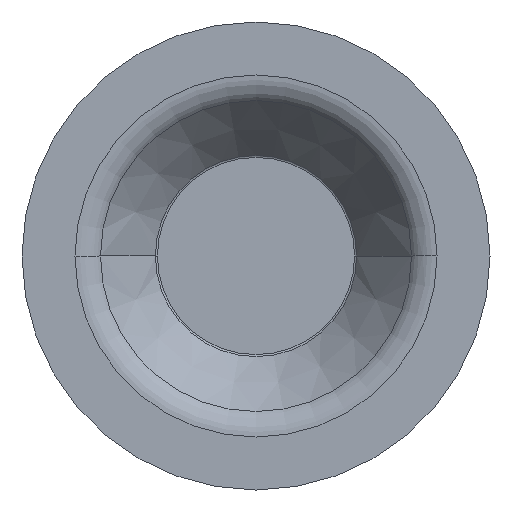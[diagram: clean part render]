
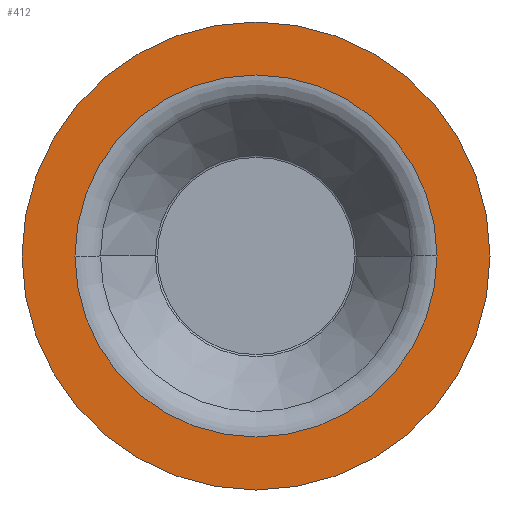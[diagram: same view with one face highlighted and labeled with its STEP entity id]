
A CAD part, front view. The second image highlights one B-rep face of the part: STEP entity #412.
In plain terms, the highlighted planar face has unit normal (0, -1, 0).
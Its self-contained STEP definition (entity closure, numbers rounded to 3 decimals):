
#59 = DIRECTION ( 'NONE',  ( 0., -1., 0. ) ) ;
#85 = EDGE_CURVE ( 'NONE', #1143, #639, #265, .T. ) ;
#87 = DIRECTION ( 'NONE',  ( 1., 0., 0. ) ) ;
#169 = CARTESIAN_POINT ( 'NONE',  ( 0., -22., 0. ) ) ;
#206 = AXIS2_PLACEMENT_3D ( 'NONE', #1599, #818, #666 ) ;
#265 = CIRCLE ( 'NONE', #206, 36.744 ) ;
#266 = DIRECTION ( 'NONE',  ( 0., -1., 0. ) ) ;
#327 = EDGE_CURVE ( 'NONE', #629, #837, #1069, .T. ) ;
#404 = EDGE_CURVE ( 'NONE', #639, #1143, #1496, .T. ) ;
#412 = ADVANCED_FACE ( 'NONE', ( #1466, #1088 ), #1337, .T. ) ;
#435 = CARTESIAN_POINT ( 'NONE',  ( 0., -22., 0. ) ) ;
#446 = DIRECTION ( 'NONE',  ( 1., 0., 0. ) ) ;
#484 = ORIENTED_EDGE ( 'NONE', *, *, #85, .F. ) ;
#521 = CARTESIAN_POINT ( 'NONE',  ( -36.744, -22., 0. ) ) ;
#550 = DIRECTION ( 'NONE',  ( -1., 0., 0. ) ) ;
#578 = AXIS2_PLACEMENT_3D ( 'NONE', #435, #1197, #550 ) ;
#619 = EDGE_LOOP ( 'NONE', ( #1619, #963 ) ) ;
#629 = VERTEX_POINT ( 'NONE', #1413 ) ;
#639 = VERTEX_POINT ( 'NONE', #521 ) ;
#666 = DIRECTION ( 'NONE',  ( -1., 0., 0. ) ) ;
#714 = CIRCLE ( 'NONE', #877, 47.5 ) ;
#818 = DIRECTION ( 'NONE',  ( 0., -1., 0. ) ) ;
#837 = VERTEX_POINT ( 'NONE', #1465 ) ;
#843 = DIRECTION ( 'NONE',  ( 1., 0., 0. ) ) ;
#877 = AXIS2_PLACEMENT_3D ( 'NONE', #1544, #266, #87 ) ;
#889 = ORIENTED_EDGE ( 'NONE', *, *, #404, .F. ) ;
#957 = AXIS2_PLACEMENT_3D ( 'NONE', #1597, #59, #446 ) ;
#963 = ORIENTED_EDGE ( 'NONE', *, *, #327, .T. ) ;
#972 = CARTESIAN_POINT ( 'NONE',  ( 36.744, -22., 0. ) ) ;
#1069 = CIRCLE ( 'NONE', #1658, 47.5 ) ;
#1071 = DIRECTION ( 'NONE',  ( 0., -1., 0. ) ) ;
#1088 = FACE_OUTER_BOUND ( 'NONE', #619, .T. ) ;
#1108 = EDGE_LOOP ( 'NONE', ( #889, #484 ) ) ;
#1143 = VERTEX_POINT ( 'NONE', #972 ) ;
#1197 = DIRECTION ( 'NONE',  ( 0., -1., 0. ) ) ;
#1299 = EDGE_CURVE ( 'NONE', #837, #629, #714, .T. ) ;
#1337 = PLANE ( 'NONE',  #957 ) ;
#1413 = CARTESIAN_POINT ( 'NONE',  ( -47.5, -22., 0. ) ) ;
#1465 = CARTESIAN_POINT ( 'NONE',  ( 47.5, -22., 0. ) ) ;
#1466 = FACE_BOUND ( 'NONE', #1108, .T. ) ;
#1496 = CIRCLE ( 'NONE', #578, 36.744 ) ;
#1544 = CARTESIAN_POINT ( 'NONE',  ( 0., -22., 0. ) ) ;
#1597 = CARTESIAN_POINT ( 'NONE',  ( 47.5, -22., 0. ) ) ;
#1599 = CARTESIAN_POINT ( 'NONE',  ( 0., -22., 0. ) ) ;
#1619 = ORIENTED_EDGE ( 'NONE', *, *, #1299, .T. ) ;
#1658 = AXIS2_PLACEMENT_3D ( 'NONE', #169, #1071, #843 ) ;
